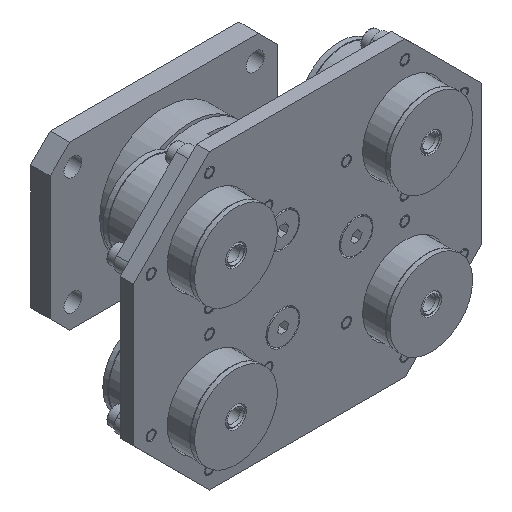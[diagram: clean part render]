
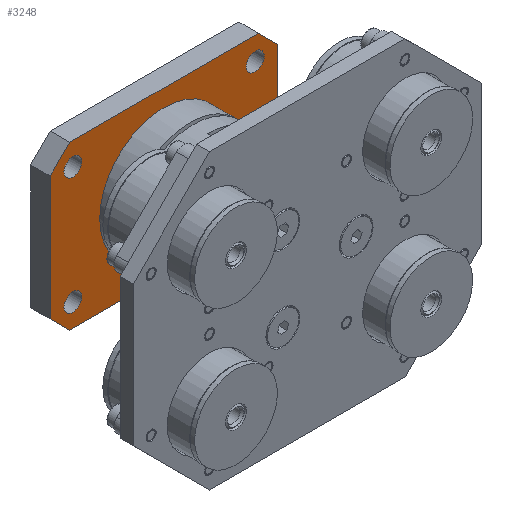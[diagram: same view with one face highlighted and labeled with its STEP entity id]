
A CAD part, isometric view. The second image highlights one B-rep face of the part: STEP entity #3248.
In plain terms, the highlighted planar face has unit normal (0, -1, 0).
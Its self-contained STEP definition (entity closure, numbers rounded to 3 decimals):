
#912=LINE('',#19319,#1632);
#913=LINE('',#19322,#1633);
#914=LINE('',#19324,#1634);
#915=LINE('',#19326,#1635);
#916=LINE('',#19328,#1636);
#917=LINE('',#19330,#1637);
#918=LINE('',#19332,#1638);
#919=LINE('',#19334,#1639);
#1632=VECTOR('',#15916,1.);
#1633=VECTOR('',#15917,1.);
#1634=VECTOR('',#15918,1.);
#1635=VECTOR('',#15919,1.);
#1636=VECTOR('',#15920,1.);
#1637=VECTOR('',#15921,1.);
#1638=VECTOR('',#15922,1.);
#1639=VECTOR('',#15923,1.);
#2532=PLANE('',#13006);
#3248=ADVANCED_FACE('',(#4407,#4408,#4409,#4410,#4411,#4412),#2532,.T.);
#4407=FACE_BOUND('',#5602,.T.);
#4408=FACE_BOUND('',#5603,.T.);
#4409=FACE_BOUND('',#5604,.T.);
#4410=FACE_BOUND('',#5605,.T.);
#4411=FACE_BOUND('',#5606,.T.);
#4412=FACE_BOUND('',#5607,.T.);
#5602=EDGE_LOOP('',(#7784));
#5603=EDGE_LOOP('',(#7785));
#5604=EDGE_LOOP('',(#7786));
#5605=EDGE_LOOP('',(#7787,#7788,#7789,#7790,#7791,#7792,#7793,#7794));
#5606=EDGE_LOOP('',(#7795));
#5607=EDGE_LOOP('',(#7796));
#7784=ORIENTED_EDGE('',*,*,#10824,.F.);
#7785=ORIENTED_EDGE('',*,*,#10821,.T.);
#7786=ORIENTED_EDGE('',*,*,#10823,.T.);
#7787=ORIENTED_EDGE('',*,*,#10825,.F.);
#7788=ORIENTED_EDGE('',*,*,#10826,.T.);
#7789=ORIENTED_EDGE('',*,*,#10827,.F.);
#7790=ORIENTED_EDGE('',*,*,#10828,.T.);
#7791=ORIENTED_EDGE('',*,*,#10829,.F.);
#7792=ORIENTED_EDGE('',*,*,#10830,.T.);
#7793=ORIENTED_EDGE('',*,*,#10831,.F.);
#7794=ORIENTED_EDGE('',*,*,#10832,.T.);
#7795=ORIENTED_EDGE('',*,*,#10819,.T.);
#7796=ORIENTED_EDGE('',*,*,#10817,.T.);
#9544=VERTEX_POINT('',#19300);
#9546=VERTEX_POINT('',#19305);
#9548=VERTEX_POINT('',#19310);
#9550=VERTEX_POINT('',#19315);
#9551=VERTEX_POINT('',#19318);
#9552=VERTEX_POINT('',#19320);
#9553=VERTEX_POINT('',#19321);
#9554=VERTEX_POINT('',#19323);
#9555=VERTEX_POINT('',#19325);
#9556=VERTEX_POINT('',#19327);
#9557=VERTEX_POINT('',#19329);
#9558=VERTEX_POINT('',#19331);
#9559=VERTEX_POINT('',#19333);
#10817=EDGE_CURVE('',#9544,#9544,#11799,.T.);
#10819=EDGE_CURVE('',#9546,#9546,#11801,.T.);
#10821=EDGE_CURVE('',#9548,#9548,#11803,.T.);
#10823=EDGE_CURVE('',#9550,#9550,#11805,.T.);
#10824=EDGE_CURVE('',#9551,#9551,#11806,.T.);
#10825=EDGE_CURVE('',#9552,#9553,#912,.T.);
#10826=EDGE_CURVE('',#9552,#9554,#913,.T.);
#10827=EDGE_CURVE('',#9555,#9554,#914,.T.);
#10828=EDGE_CURVE('',#9555,#9556,#915,.T.);
#10829=EDGE_CURVE('',#9557,#9556,#916,.T.);
#10830=EDGE_CURVE('',#9557,#9558,#917,.T.);
#10831=EDGE_CURVE('',#9559,#9558,#918,.T.);
#10832=EDGE_CURVE('',#9559,#9553,#919,.T.);
#11799=CIRCLE('',#12994,2.75);
#11801=CIRCLE('',#12997,2.75);
#11803=CIRCLE('',#13000,2.75);
#11805=CIRCLE('',#13003,2.75);
#11806=CIRCLE('',#13005,19.75);
#12994=AXIS2_PLACEMENT_3D('',#19299,#15892,#15893);
#12997=AXIS2_PLACEMENT_3D('',#19304,#15898,#15899);
#13000=AXIS2_PLACEMENT_3D('',#19309,#15904,#15905);
#13003=AXIS2_PLACEMENT_3D('',#19314,#15910,#15911);
#13005=AXIS2_PLACEMENT_3D('',#19317,#15914,#15915);
#13006=AXIS2_PLACEMENT_3D('',#19335,#15924,#15925);
#15892=DIRECTION('',(0.,1.,0.));
#15893=DIRECTION('',(0.,0.,1.));
#15898=DIRECTION('',(0.,1.,0.));
#15899=DIRECTION('',(0.,0.,1.));
#15904=DIRECTION('',(0.,1.,0.));
#15905=DIRECTION('',(0.,0.,1.));
#15910=DIRECTION('',(0.,1.,0.));
#15911=DIRECTION('',(0.,0.,1.));
#15914=DIRECTION('',(0.,-1.,0.));
#15915=DIRECTION('',(-0.5,0.,0.866));
#15916=DIRECTION('',(-1.,0.,0.));
#15917=DIRECTION('',(0.707,0.,0.707));
#15918=DIRECTION('',(0.,0.,-1.));
#15919=DIRECTION('',(-0.707,0.,0.707));
#15920=DIRECTION('',(1.,0.,0.));
#15921=DIRECTION('',(-0.707,0.,-0.707));
#15922=DIRECTION('',(0.,0.,1.));
#15923=DIRECTION('',(0.707,0.,-0.707));
#15924=DIRECTION('',(0.,-1.,0.));
#15925=DIRECTION('',(0.,0.,1.));
#19299=CARTESIAN_POINT('',(28.,0.,18.));
#19300=CARTESIAN_POINT('',(28.,0.,20.75));
#19304=CARTESIAN_POINT('',(28.,0.,-18.));
#19305=CARTESIAN_POINT('',(28.,0.,-15.25));
#19309=CARTESIAN_POINT('',(-28.,0.,18.));
#19310=CARTESIAN_POINT('',(-28.,0.,20.75));
#19314=CARTESIAN_POINT('',(-28.,0.,-18.));
#19315=CARTESIAN_POINT('',(-28.,0.,-15.25));
#19317=CARTESIAN_POINT('',(0.,0.,0.));
#19318=CARTESIAN_POINT('',(-9.875,0.,17.104));
#19319=CARTESIAN_POINT('',(-35.,0.,-25.));
#19320=CARTESIAN_POINT('',(29.,0.,-25.));
#19321=CARTESIAN_POINT('',(-29.,0.,-25.));
#19322=CARTESIAN_POINT('',(27.,0.,-27.));
#19323=CARTESIAN_POINT('',(35.,0.,-19.));
#19324=CARTESIAN_POINT('',(35.,0.,25.));
#19325=CARTESIAN_POINT('',(35.,0.,19.));
#19326=CARTESIAN_POINT('',(27.,0.,27.));
#19327=CARTESIAN_POINT('',(29.,0.,25.));
#19328=CARTESIAN_POINT('',(-35.,0.,25.));
#19329=CARTESIAN_POINT('',(-29.,0.,25.));
#19330=CARTESIAN_POINT('',(-27.,0.,27.));
#19331=CARTESIAN_POINT('',(-35.,0.,19.));
#19332=CARTESIAN_POINT('',(-35.,0.,25.));
#19333=CARTESIAN_POINT('',(-35.,0.,-19.));
#19334=CARTESIAN_POINT('',(-27.,0.,-27.));
#19335=CARTESIAN_POINT('',(0.,0.,0.));
